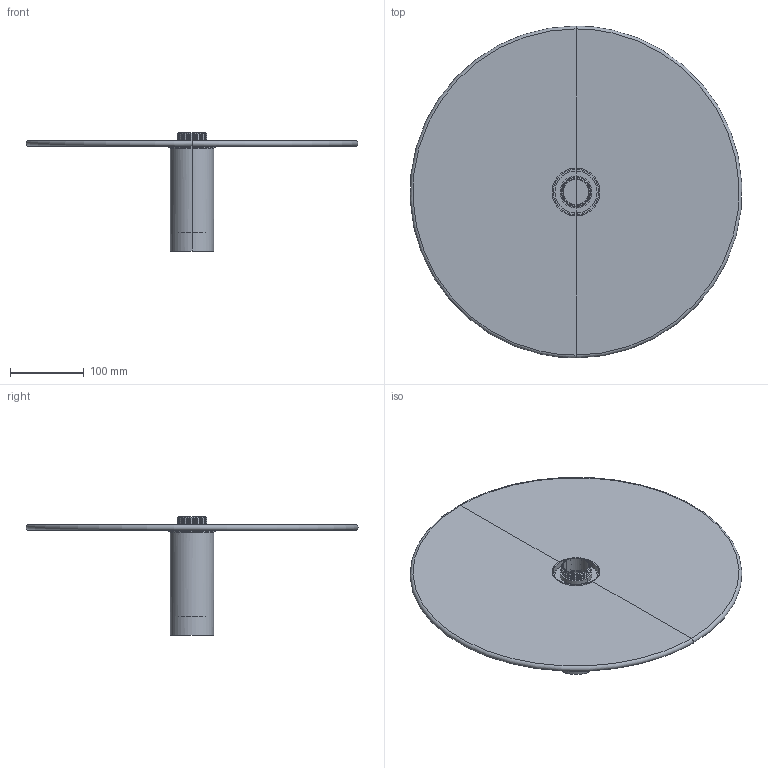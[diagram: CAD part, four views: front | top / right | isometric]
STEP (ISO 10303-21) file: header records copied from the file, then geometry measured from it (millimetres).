
FILE_DESCRIPTION(/* description */ (''),/* implementation_level */ '2;1');
FILE_NAME(/* name */ '62174-51_3d.step',/* time_stamp */ '2024-04-03T10:56:14+02:00',/* author */ ('RenataManzini'),/* organization */ (''),/* preprocessor_version */ 'ST-DEVELOPER v20',/* originating_system */ 'AutoCAD Mechanical',/* authorisation */ '');
FILE_SCHEMA (('AUTOMOTIVE_DESIGN { 1 0 10303 214 3 1 1 }'));
Length unit declared in the file: millimetre
Products named in the file (2): Product; 62174-51_lamp - 62174-51 Lamp-611842-_3D_
Assembly tree (1 placements, depth 2):
  Product
    62174-51_lamp - 62174-51 Lamp-611842-_3D_
Bounding box: 449.33 x 449.91 x 159.95 mm (x, y, z)
Volume: 1300670.2 mm3; surface area: 397595.1 mm2
Topology: 4 solids, 4 shells, 84 faces, 194 edges, 110 vertices
Faces by surface type: cylinder 40, plane 32, torus 12
Entity records: 3653 total; most frequent: CARTESIAN_POINT 1711, DIRECTION 414, ORIENTED_EDGE 388, EDGE_CURVE 194, AXIS2_PLACEMENT_3D 171, VERTEX_POINT 110, EDGE_LOOP 88, FACE_OUTER_BOUND 84
